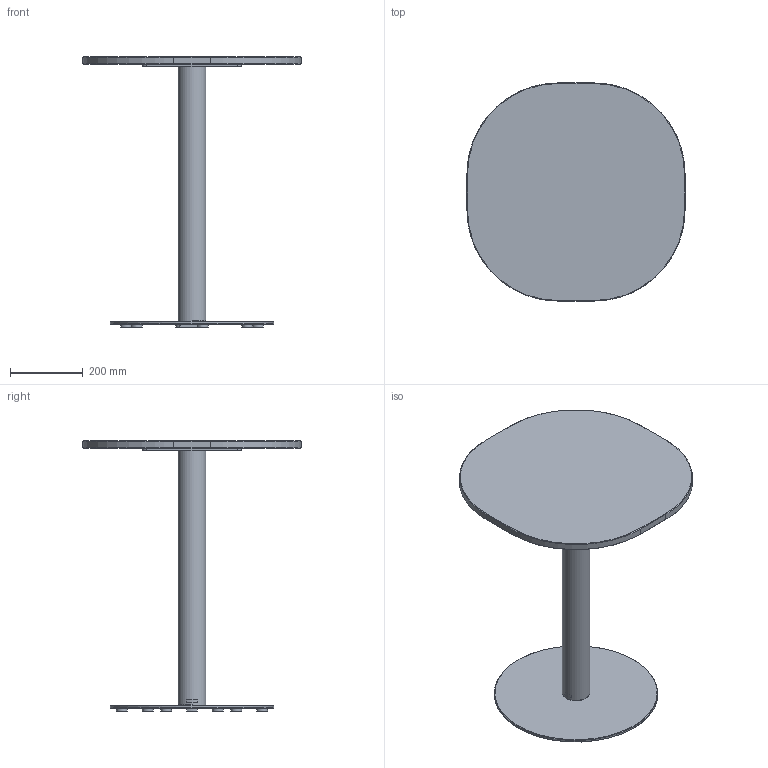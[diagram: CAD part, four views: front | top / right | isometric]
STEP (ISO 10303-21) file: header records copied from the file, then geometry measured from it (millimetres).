
FILE_DESCRIPTION( ('This file contains a STEP AP42 implementation' ,'as created by ZW3D STEP Interface translator.') ,'2;1' );
FILE_NAME( 'Henri - B_Rond - F2 - M1 - 600 x 600 x 750.stp' ,'24 912.152324', (''), ('ZWCAD Software Co.'), 'Version 1.0', 'ZW3D to STEP translator', '' );
FILE_SCHEMA(('AUTOMOTIVE_DESIGN { 1 0 10303 214 1 1 1 1 }'));
Length unit declared in the file: millimetre
Products named in the file (14): 0; PIED BISTROT PARAMETRIQUE_; COLONNE ACIER Ø76 V.02_; TUB-D076-02_; PLA-R76B-01_; SOCLE ACIER C Ø450 V.02_; SCL-D450-02_; PLA-R30A-01_; PLA-R30A-01; CROIX ACIER 370 V.02_; CRX-X370-02_; WUERTH 0276063020 Euro-screw 6.3x2 Verzinkt_; PLATEAU BISTROT PARAMETRIQUE_; insert_m6_13_
Assembly tree (24 placements, depth 3):
  0
  PIED BISTROT PARAMETRIQUE_
    COLONNE ACIER Ø76 V.02_
      TUB-D076-02_
      PLA-R76B-01_  x2
    SOCLE ACIER C Ø450 V.02_
      SCL-D450-02_
      PLA-R30A-01_
      PLA-R30A-01  x5
    CROIX ACIER 370 V.02_
      CRX-X370-02_
    WUERTH 0276063020 Euro-screw 6.3x2 Verzinkt_
    PLATEAU BISTROT PARAMETRIQUE_
      insert_m6_13_  x8
Bounding box: 600 x 600 x 744 mm (x, y, z)
Volume: 8344909.3 mm3; surface area: 1503382 mm2
Topology: 21 solids, 21 shells, 524 faces, 1273 edges, 802 vertices
Faces by surface type: plane 248, bspline 127, cylinder 99, cone 49, torus 1
Full cylindrical faces by diameter (mm): 4.88 x1, 6 x8, 6.3 x1, 8 x47, 12 x2, 14 x2, 30 x6, 72 x1, 76 x1, 450 x1
Entity records: 11820 total; most frequent: CARTESIAN_POINT 3450, ORIENTED_EDGE 1526, DIRECTION 1390, EDGE_CURVE 763, VERTEX_POINT 490, VECTOR 470, LINE 470, AXIS2_PLACEMENT_3D 460
